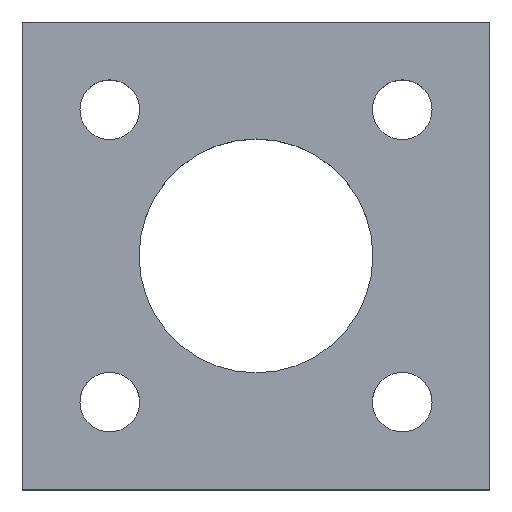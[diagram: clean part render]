
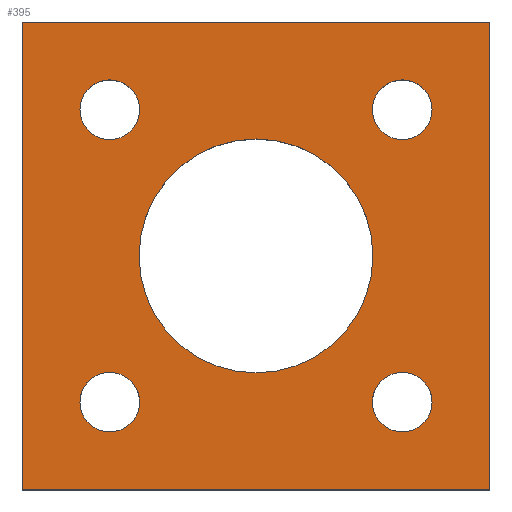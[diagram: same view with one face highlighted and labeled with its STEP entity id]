
A CAD part, top view. The second image highlights one B-rep face of the part: STEP entity #395.
In plain terms, the highlighted planar face has unit normal (0, 0, 1).
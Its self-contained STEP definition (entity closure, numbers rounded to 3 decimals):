
#4 = VERTEX_POINT ( 'NONE', #326 ) ;
#8 = EDGE_CURVE ( 'NONE', #250, #412, #390, .T. ) ;
#17 = ORIENTED_EDGE ( 'NONE', *, *, #74, .T. ) ;
#19 = DIRECTION ( 'NONE',  ( -1., 0., 0. ) ) ;
#20 = EDGE_CURVE ( 'NONE', #135, #4, #501, .T. ) ;
#24 = CARTESIAN_POINT ( 'NONE',  ( -19.9, 25., 0. ) ) ;
#25 = LINE ( 'NONE', #334, #483 ) ;
#28 = AXIS2_PLACEMENT_3D ( 'NONE', #197, #508, #234 ) ;
#29 = CARTESIAN_POINT ( 'NONE',  ( -25., 25., 0. ) ) ;
#33 = ORIENTED_EDGE ( 'NONE', *, *, #38, .F. ) ;
#38 = EDGE_CURVE ( 'NONE', #201, #565, #157, .T. ) ;
#45 = DIRECTION ( 'NONE',  ( 0., 0., 1. ) ) ;
#46 = AXIS2_PLACEMENT_3D ( 'NONE', #312, #45, #352 ) ;
#48 = DIRECTION ( 'NONE',  ( 0., -1., 0. ) ) ;
#54 = DIRECTION ( 'NONE',  ( -1., 0., 0. ) ) ;
#59 = FACE_BOUND ( 'NONE', #383, .T. ) ;
#61 = CARTESIAN_POINT ( 'NONE',  ( 25., 25., 0. ) ) ;
#64 = DIRECTION ( 'NONE',  ( 0., 0., 1. ) ) ;
#70 = DIRECTION ( 'NONE',  ( 1., 0., 0. ) ) ;
#74 = EDGE_CURVE ( 'NONE', #539, #161, #25, .T. ) ;
#76 = EDGE_LOOP ( 'NONE', ( #290, #394 ) ) ;
#78 = FACE_OUTER_BOUND ( 'NONE', #120, .T. ) ;
#80 = DIRECTION ( 'NONE',  ( -1., 0., 0. ) ) ;
#83 = CIRCLE ( 'NONE', #325, 5.1 ) ;
#91 = ORIENTED_EDGE ( 'NONE', *, *, #467, .T. ) ;
#93 = CARTESIAN_POINT ( 'NONE',  ( 19.9, 25., 0. ) ) ;
#94 = VECTOR ( 'NONE', #541, 1000. ) ;
#95 = CARTESIAN_POINT ( 'NONE',  ( 40., 40., 0. ) ) ;
#108 = DIRECTION ( 'NONE',  ( -1., 0., 0. ) ) ;
#117 = ORIENTED_EDGE ( 'NONE', *, *, #392, .F. ) ;
#119 = CARTESIAN_POINT ( 'NONE',  ( 25., -25., 0. ) ) ;
#120 = EDGE_LOOP ( 'NONE', ( #117, #91, #481, #17 ) ) ;
#133 = EDGE_CURVE ( 'NONE', #215, #306, #139, .T. ) ;
#135 = VERTEX_POINT ( 'NONE', #24 ) ;
#138 = CARTESIAN_POINT ( 'NONE',  ( -40., 40., 0. ) ) ;
#139 = CIRCLE ( 'NONE', #205, 5.1 ) ;
#143 = CIRCLE ( 'NONE', #371, 5.1 ) ;
#148 = CARTESIAN_POINT ( 'NONE',  ( 25., -25., 0. ) ) ;
#157 = CIRCLE ( 'NONE', #28, 5.1 ) ;
#159 = CARTESIAN_POINT ( 'NONE',  ( 25., 25., 0. ) ) ;
#161 = VERTEX_POINT ( 'NONE', #242 ) ;
#164 = DIRECTION ( 'NONE',  ( -1., 0., 0. ) ) ;
#177 = FACE_BOUND ( 'NONE', #76, .T. ) ;
#185 = EDGE_CURVE ( 'NONE', #4, #135, #83, .T. ) ;
#189 = ORIENTED_EDGE ( 'NONE', *, *, #219, .F. ) ;
#192 = EDGE_LOOP ( 'NONE', ( #329, #527 ) ) ;
#194 = DIRECTION ( 'NONE',  ( -1., 0., 0. ) ) ;
#197 = CARTESIAN_POINT ( 'NONE',  ( -25., -25., 0. ) ) ;
#201 = VERTEX_POINT ( 'NONE', #386 ) ;
#202 = DIRECTION ( 'NONE',  ( -1., 0., 0. ) ) ;
#203 = EDGE_LOOP ( 'NONE', ( #396, #479 ) ) ;
#205 = AXIS2_PLACEMENT_3D ( 'NONE', #159, #469, #202 ) ;
#210 = LINE ( 'NONE', #138, #94 ) ;
#215 = VERTEX_POINT ( 'NONE', #245 ) ;
#219 = EDGE_CURVE ( 'NONE', #412, #250, #297, .T. ) ;
#220 = PLANE ( 'NONE',  #246 ) ;
#225 = CARTESIAN_POINT ( 'NONE',  ( -25., -25., 0. ) ) ;
#234 = DIRECTION ( 'NONE',  ( -1., 0., 0. ) ) ;
#242 = CARTESIAN_POINT ( 'NONE',  ( 40., -40., 0. ) ) ;
#245 = CARTESIAN_POINT ( 'NONE',  ( 30.1, 25., 0. ) ) ;
#246 = AXIS2_PLACEMENT_3D ( 'NONE', #357, #538, #264 ) ;
#250 = VERTEX_POINT ( 'NONE', #296 ) ;
#264 = DIRECTION ( 'NONE',  ( 1., 0., 0. ) ) ;
#268 = VERTEX_POINT ( 'NONE', #566 ) ;
#272 = CARTESIAN_POINT ( 'NONE',  ( -40., 40., 0. ) ) ;
#275 = DIRECTION ( 'NONE',  ( -1., 0., 0. ) ) ;
#277 = CARTESIAN_POINT ( 'NONE',  ( 40., 40., 0. ) ) ;
#279 = AXIS2_PLACEMENT_3D ( 'NONE', #225, #548, #275 ) ;
#280 = DIRECTION ( 'NONE',  ( 0., 0., 1. ) ) ;
#290 = ORIENTED_EDGE ( 'NONE', *, *, #133, .F. ) ;
#292 = FACE_BOUND ( 'NONE', #192, .T. ) ;
#296 = CARTESIAN_POINT ( 'NONE',  ( 19.9, -25., 0. ) ) ;
#297 = CIRCLE ( 'NONE', #387, 5.1 ) ;
#306 = VERTEX_POINT ( 'NONE', #93 ) ;
#307 = LINE ( 'NONE', #95, #414 ) ;
#312 = CARTESIAN_POINT ( 'NONE',  ( 0., 0., 0. ) ) ;
#315 = VECTOR ( 'NONE', #54, 1000. ) ;
#317 = EDGE_CURVE ( 'NONE', #268, #324, #492, .T. ) ;
#319 = CARTESIAN_POINT ( 'NONE',  ( 60., 40., 0. ) ) ;
#324 = VERTEX_POINT ( 'NONE', #533 ) ;
#325 = AXIS2_PLACEMENT_3D ( 'NONE', #29, #340, #80 ) ;
#326 = CARTESIAN_POINT ( 'NONE',  ( -30.1, 25., 0. ) ) ;
#329 = ORIENTED_EDGE ( 'NONE', *, *, #20, .F. ) ;
#332 = CARTESIAN_POINT ( 'NONE',  ( 0., 0., 0. ) ) ;
#334 = CARTESIAN_POINT ( 'NONE',  ( -60., -40., 0. ) ) ;
#340 = DIRECTION ( 'NONE',  ( 0., 0., 1. ) ) ;
#352 = DIRECTION ( 'NONE',  ( -1., 0., 0. ) ) ;
#357 = CARTESIAN_POINT ( 'NONE',  ( 0., 0., 0. ) ) ;
#368 = DIRECTION ( 'NONE',  ( 0., 0., 1. ) ) ;
#371 = AXIS2_PLACEMENT_3D ( 'NONE', #61, #368, #108 ) ;
#372 = DIRECTION ( 'NONE',  ( -1., 0., 0. ) ) ;
#376 = EDGE_LOOP ( 'NONE', ( #510, #33 ) ) ;
#383 = EDGE_LOOP ( 'NONE', ( #189, #415 ) ) ;
#386 = CARTESIAN_POINT ( 'NONE',  ( -30.1, -25., 0. ) ) ;
#387 = AXIS2_PLACEMENT_3D ( 'NONE', #119, #435, #164 ) ;
#390 = CIRCLE ( 'NONE', #515, 5.1 ) ;
#392 = EDGE_CURVE ( 'NONE', #543, #161, #307, .T. ) ;
#394 = ORIENTED_EDGE ( 'NONE', *, *, #537, .F. ) ;
#395 = ADVANCED_FACE ( 'NONE', ( #78, #529, #292, #177, #59, #517 ), #220, .T. ) ;
#396 = ORIENTED_EDGE ( 'NONE', *, *, #317, .F. ) ;
#408 = CARTESIAN_POINT ( 'NONE',  ( 30.1, -25., 0. ) ) ;
#412 = VERTEX_POINT ( 'NONE', #408 ) ;
#414 = VECTOR ( 'NONE', #48, 1000. ) ;
#415 = ORIENTED_EDGE ( 'NONE', *, *, #8, .F. ) ;
#423 = CIRCLE ( 'NONE', #279, 5.1 ) ;
#435 = DIRECTION ( 'NONE',  ( 0., 0., 1. ) ) ;
#437 = LINE ( 'NONE', #319, #315 ) ;
#450 = EDGE_CURVE ( 'NONE', #539, #464, #210, .T. ) ;
#457 = CARTESIAN_POINT ( 'NONE',  ( -40., -40., 0. ) ) ;
#461 = DIRECTION ( 'NONE',  ( 0., 0., 1. ) ) ;
#464 = VERTEX_POINT ( 'NONE', #272 ) ;
#467 = EDGE_CURVE ( 'NONE', #543, #464, #437, .T. ) ;
#469 = DIRECTION ( 'NONE',  ( 0., 0., 1. ) ) ;
#473 = CIRCLE ( 'NONE', #553, 20. ) ;
#479 = ORIENTED_EDGE ( 'NONE', *, *, #568, .F. ) ;
#481 = ORIENTED_EDGE ( 'NONE', *, *, #450, .F. ) ;
#483 = VECTOR ( 'NONE', #70, 1000. ) ;
#492 = CIRCLE ( 'NONE', #46, 20. ) ;
#501 = CIRCLE ( 'NONE', #544, 5.1 ) ;
#502 = CARTESIAN_POINT ( 'NONE',  ( -19.9, -25., 0. ) ) ;
#505 = EDGE_CURVE ( 'NONE', #565, #201, #423, .T. ) ;
#508 = DIRECTION ( 'NONE',  ( 0., 0., 1. ) ) ;
#510 = ORIENTED_EDGE ( 'NONE', *, *, #505, .F. ) ;
#515 = AXIS2_PLACEMENT_3D ( 'NONE', #148, #461, #194 ) ;
#517 = FACE_BOUND ( 'NONE', #203, .T. ) ;
#527 = ORIENTED_EDGE ( 'NONE', *, *, #185, .F. ) ;
#529 = FACE_BOUND ( 'NONE', #376, .T. ) ;
#533 = CARTESIAN_POINT ( 'NONE',  ( -20., 0., 0. ) ) ;
#537 = EDGE_CURVE ( 'NONE', #306, #215, #143, .T. ) ;
#538 = DIRECTION ( 'NONE',  ( 0., 0., 1. ) ) ;
#539 = VERTEX_POINT ( 'NONE', #457 ) ;
#541 = DIRECTION ( 'NONE',  ( 0., 1., 0. ) ) ;
#543 = VERTEX_POINT ( 'NONE', #277 ) ;
#544 = AXIS2_PLACEMENT_3D ( 'NONE', #552, #280, #19 ) ;
#548 = DIRECTION ( 'NONE',  ( 0., 0., 1. ) ) ;
#552 = CARTESIAN_POINT ( 'NONE',  ( -25., 25., 0. ) ) ;
#553 = AXIS2_PLACEMENT_3D ( 'NONE', #332, #64, #372 ) ;
#565 = VERTEX_POINT ( 'NONE', #502 ) ;
#566 = CARTESIAN_POINT ( 'NONE',  ( 20., 0., 0. ) ) ;
#568 = EDGE_CURVE ( 'NONE', #324, #268, #473, .T. ) ;
